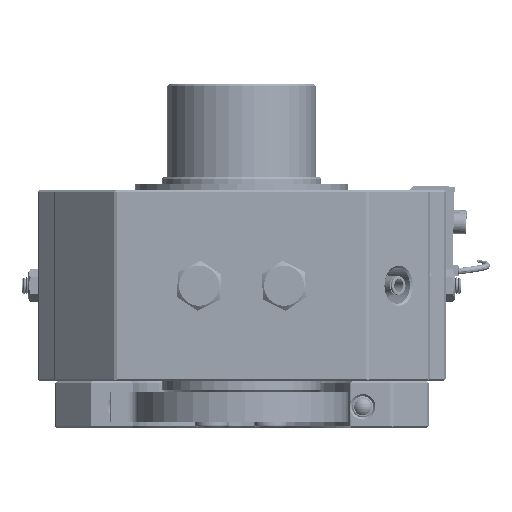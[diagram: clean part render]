
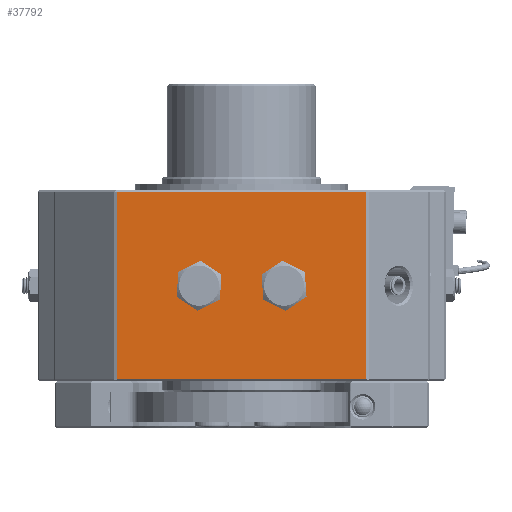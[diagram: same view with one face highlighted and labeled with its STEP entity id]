
A CAD part, left-side view. The second image highlights one B-rep face of the part: STEP entity #37792.
In plain terms, the highlighted planar face has unit normal (-1, 0, 0).
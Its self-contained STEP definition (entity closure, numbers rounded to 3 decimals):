
#28502=CARTESIAN_POINT('',(-82.5,-13.5,-95.0));
#28503=VERTEX_POINT('',#28502);
#28504=CARTESIAN_POINT('',(-82.5,-20.0,-95.0));
#28505=DIRECTION('',(1.0,0.0,0.0));
#28506=DIRECTION('',(0.0,-1.0,0.0));
#28507=AXIS2_PLACEMENT_3D('',#28504,#28505,#28506);
#28508=CIRCLE('',#28507,6.5);
#28509=EDGE_CURVE('',#28503,#28503,#28508,.T.);
#28522=CARTESIAN_POINT('',(-82.5,26.5,-95.0));
#28523=VERTEX_POINT('',#28522);
#28524=CARTESIAN_POINT('',(-82.5,20.0,-95.0));
#28525=DIRECTION('',(1.0,0.0,0.0));
#28526=DIRECTION('',(0.0,-1.0,0.0));
#28527=AXIS2_PLACEMENT_3D('',#28524,#28525,#28526);
#28528=CIRCLE('',#28527,6.5);
#28529=EDGE_CURVE('',#28523,#28523,#28528,.T.);
#37222=CARTESIAN_POINT('',(-82.5,-58.5,-51.));
#37223=VERTEX_POINT('',#37222);
#37230=CARTESIAN_POINT('',(-82.5,-58.5,-139.0));
#37231=VERTEX_POINT('',#37230);
#37232=CARTESIAN_POINT('',(-82.5,-58.5,-51.));
#37233=DIRECTION('',(0.0,0.0,-1.0));
#37234=VECTOR('',#37233,88.0);
#37235=LINE('',#37232,#37234);
#37236=EDGE_CURVE('',#37223,#37231,#37235,.T.);
#37277=CARTESIAN_POINT('',(-82.5,58.5,-139.0));
#37278=VERTEX_POINT('',#37277);
#37279=CARTESIAN_POINT('',(-82.5,-58.5,-139.0));
#37280=DIRECTION('',(0.0,1.0,0.0));
#37281=VECTOR('',#37280,117.);
#37282=LINE('',#37279,#37281);
#37283=EDGE_CURVE('',#37231,#37278,#37282,.T.);
#37313=CARTESIAN_POINT('',(-82.5,58.5,-51.));
#37314=VERTEX_POINT('',#37313);
#37315=CARTESIAN_POINT('',(-82.5,58.5,-139.0));
#37316=DIRECTION('',(0.0,0.0,1.0));
#37317=VECTOR('',#37316,88.0);
#37318=LINE('',#37315,#37317);
#37319=EDGE_CURVE('',#37278,#37314,#37318,.T.);
#37364=CARTESIAN_POINT('',(-82.5,58.5,-51.));
#37365=DIRECTION('',(0.0,-1.0,0.0));
#37366=VECTOR('',#37365,117.);
#37367=LINE('',#37364,#37366);
#37368=EDGE_CURVE('',#37314,#37223,#37367,.T.);
#37775=CARTESIAN_POINT('',(-82.5,-96.,-50.0));
#37776=DIRECTION('',(-1.0,0.0,0.0));
#37777=DIRECTION('',(0.0,0.0,1.0));
#37778=AXIS2_PLACEMENT_3D('',#37775,#37776,#37777);
#37779=PLANE('',#37778);
#37780=ORIENTED_EDGE('',*,*,#37236,.F.);
#37781=ORIENTED_EDGE('',*,*,#37368,.F.);
#37782=ORIENTED_EDGE('',*,*,#37319,.F.);
#37783=ORIENTED_EDGE('',*,*,#37283,.F.);
#37784=EDGE_LOOP('',(#37780,#37781,#37782,#37783));
#37785=FACE_OUTER_BOUND('',#37784,.T.);
#37786=ORIENTED_EDGE('',*,*,#28529,.T.);
#37787=EDGE_LOOP('',(#37786));
#37788=FACE_BOUND('',#37787,.T.);
#37789=ORIENTED_EDGE('',*,*,#28509,.T.);
#37790=EDGE_LOOP('',(#37789));
#37791=FACE_BOUND('',#37790,.T.);
#37792=ADVANCED_FACE('',(#37785,#37788,#37791),#37779,.T.);
